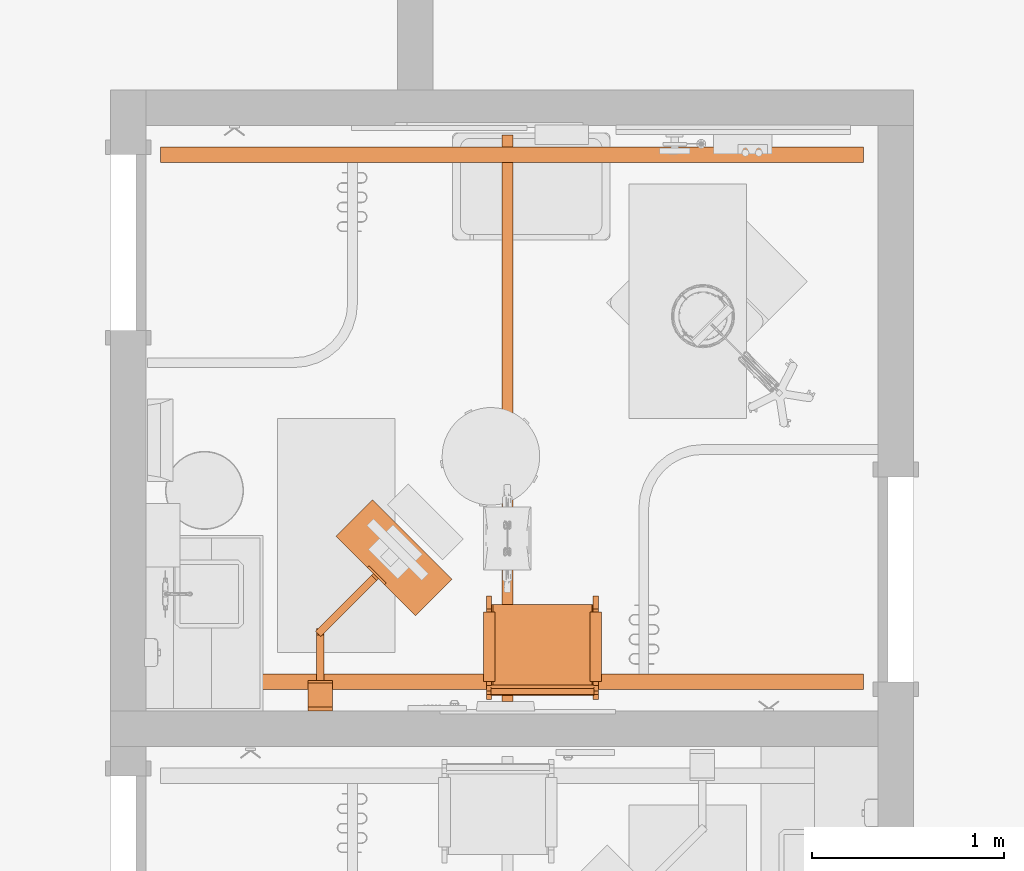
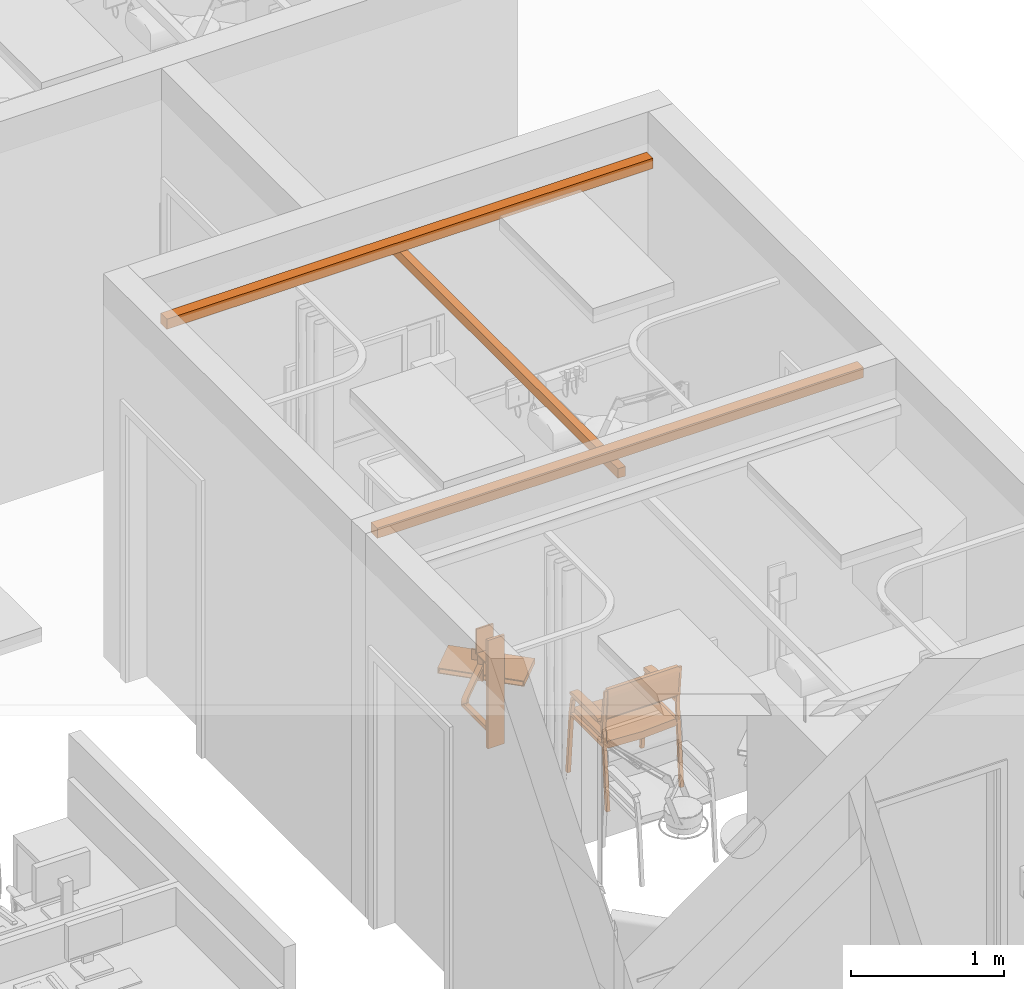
# One storey, part 36 of 142: 3 proxies.
"""IFC2X3 building model written with IfcOpenShell, lengths in feet."""

from ifc_helpers import new_model, entity, si_unit, converted_unit, derived_unit, direction, frame, frame_2d, origin, origin_2d_with_axis, place, context, subcontext, project, spatial, polyline, circle_curve, parameter, trimmed, segment, composite_curve, rectangle, circle, outline, extrude, source, transform, mapped, type_object, type_shapes, element, save


model = new_model("IFC2X3")

# Units and contexts
model_context = context("Model", 3, precision=0.0001, world=origin(), true_north=direction((6.12303176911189e-17, 1.0)))
body_context = subcontext(model_context, "Body", "Model", "MODEL_VIEW")
ifc_project = project(units=[converted_unit("LENGTHUNIT", "FOOT", entity("IfcRatioMeasure", 0.3048), si_unit("LENGTHUNIT", "METRE"), dimensions=[1, 0, 0, 0, 0, 0, 0]), converted_unit("AREAUNIT", "SQUARE FOOT", entity("IfcRatioMeasure", 0.09290304), si_unit("AREAUNIT", "SQUARE_METRE"), dimensions=[2, 0, 0, 0, 0, 0, 0]), converted_unit("VOLUMEUNIT", "CUBIC FOOT", entity("IfcRatioMeasure", 0.028316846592), si_unit("VOLUMEUNIT", "CUBIC_METRE"), dimensions=[3, 0, 0, 0, 0, 0, 0]), converted_unit("PLANEANGLEUNIT", "DEGREE", entity("IfcRatioMeasure", 0.0174532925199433), si_unit("PLANEANGLEUNIT", "RADIAN"), dimensions=[0, 0, 0, 0, 0, 0, 0]), si_unit("MASSUNIT", "GRAM", prefix="KILO"), derived_unit("MASSDENSITYUNIT", [(si_unit("MASSUNIT", "GRAM", prefix="KILO"), 1), (si_unit("LENGTHUNIT", "METRE"), -3)]), si_unit("TIMEUNIT", "SECOND"), si_unit("FREQUENCYUNIT", "HERTZ"), si_unit("THERMODYNAMICTEMPERATUREUNIT", "DEGREE_CELSIUS"), derived_unit("THERMALTRANSMITTANCEUNIT", [(si_unit("MASSUNIT", "GRAM", prefix="KILO"), 1), (si_unit("THERMODYNAMICTEMPERATUREUNIT", "KELVIN"), -1), (si_unit("TIMEUNIT", "SECOND"), -3)]), derived_unit("VOLUMETRICFLOWRATEUNIT", [(si_unit("LENGTHUNIT", "METRE"), 3), (si_unit("TIMEUNIT", "SECOND"), -1)]), si_unit("ELECTRICCURRENTUNIT", "AMPERE"), si_unit("ELECTRICVOLTAGEUNIT", "VOLT"), si_unit("POWERUNIT", "WATT"), si_unit("FORCEUNIT", "NEWTON"), si_unit("ILLUMINANCEUNIT", "LUX"), si_unit("LUMINOUSFLUXUNIT", "LUMEN"), si_unit("LUMINOUSINTENSITYUNIT", "CANDELA"), derived_unit("USERDEFINED", [(si_unit("MASSUNIT", "GRAM", prefix="KILO"), -1), (si_unit("LENGTHUNIT", "METRE"), -2), (si_unit("TIMEUNIT", "SECOND"), 3), (si_unit("LUMINOUSFLUXUNIT", "LUMEN"), 1)]), derived_unit("LINEARVELOCITYUNIT", [(si_unit("LENGTHUNIT", "METRE"), 1), (si_unit("TIMEUNIT", "SECOND"), -1)]), si_unit("PRESSUREUNIT", "PASCAL"), derived_unit("USERDEFINED", [(si_unit("LENGTHUNIT", "METRE"), -2), (si_unit("MASSUNIT", "GRAM", prefix="KILO"), 1), (si_unit("TIMEUNIT", "SECOND"), -2)])], contexts=[model_context])

# Site, building, storey, space
site_placement = place(None, origin())
site = spatial("IfcSite", under=ifc_project, at=site_placement, Name="Default", CompositionType="ELEMENT")
building_placement = place(site_placement, origin())
building = spatial("IfcBuilding", under=site, at=building_placement, Name="OUTPATIENT / PACT CLINIC (Ch. 265)", CompositionType="ELEMENT")
storey_placement = place(building_placement, origin())
storey = spatial("IfcBuildingStorey", under=building, at=storey_placement, Name="LEVEL 1", CompositionType="ELEMENT", Elevation=0.0)
space_placement = place(storey_placement, origin())
space = spatial("IfcSpace", under=storey, at=space_placement, Name="EXPA1", CompositionType="ELEMENT", InteriorOrExteriorSpace="INTERNAL")

# Proxies
building_element_proxy_type_1 = type_object("IfcBuildingElementProxyType", Name="M1803 - Workstation, Computer, Wall Mounted", PredefinedType="NOTDEFINED")
shared_shape_1 = source(origin(), body_context, "Body", "SweptSolid", [
    extrude(circle(Radius=0.104166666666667, at=frame_2d((1.0547118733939e-15, 3.336446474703e-16), x_axis=(1.0, 0.0))), frame((-0.0810226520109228, -1.34888430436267, 0.333333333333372), z_axis=(0.707106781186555, -0.70710678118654, 0.0), x_axis=(0.0, 0.0, 1.0)), (0.0, 0.0, 1.0), 0.125000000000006),
    extrude(outline(composite_curve([segment(polyline([(0.0520833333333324, -0.592708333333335), (0.0520833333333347, 0.644791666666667)]), True, "CONTINUOUS"), segment(polyline([(0.0520833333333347, 0.644791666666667), (-0.0520833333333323, 0.644791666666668)]), True, "CONTINUOUS"), segment(polyline([(-0.0520833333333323, 0.644791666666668), (-0.0520833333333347, -0.696875)]), True, "CONTINUOUS"), segment(trimmed(circle_curve(frame_2d((0.0520833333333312, -0.696875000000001), x_axis=(1.0, 0.0)), 0.104166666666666), [parameter(89.9999999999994)], [parameter(180.0)], True, "PARAMETER"), False, "CONTINUOUS")], self_intersect=False)), frame((-0.0624999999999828, -0.711458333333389, 0.281250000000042), z_axis=(-1.0, 0.0, 0.0), x_axis=(0.0, 0.0, 1.0)), (0.0, 0.0, -1.0), 0.125000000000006),
    extrude(outline(composite_curve([segment(polyline([(0.0520833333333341, -0.651041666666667), (0.0520833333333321, 0.598958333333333)]), True, "CONTINUOUS"), segment(polyline([(0.0520833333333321, 0.598958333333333), (-0.0520833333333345, 0.598958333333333)]), True, "CONTINUOUS"), segment(polyline([(-0.0520833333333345, 0.598958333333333), (-0.0520833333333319, -0.546875)]), True, "CONTINUOUS"), segment(trimmed(circle_curve(frame_2d((-0.0520833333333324, -0.651041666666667), x_axis=(1.0, 0.0)), 0.104166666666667), [parameter(1.01777749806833e-13)], [parameter(90.0000000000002)], True, "PARAMETER"), False, "CONTINUOUS")], self_intersect=False)), frame((-0.452990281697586, -1.89762862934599, 0.385416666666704), z_axis=(0.707106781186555, -0.70710678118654, 0.0), x_axis=(0.0, 0.0, 1.0)), (0.0, 0.0, -1.0), 0.125000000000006),
    extrude(outline(polyline([(-0.0729166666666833, -0.95833333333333), (0.0729166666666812, -0.95833333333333), (0.0729166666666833, 0.95833333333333), (-0.0729166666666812, 0.95833333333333), (-0.0729166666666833, -0.95833333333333)]), holes=[polyline([(-0.05208333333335, -0.937499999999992), (-0.052083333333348, 0.937499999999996), (0.0520833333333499, 0.937499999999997), (0.0520833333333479, -0.937499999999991), (-0.05208333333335, -0.937499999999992)])]), frame((-1.5747857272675, -2.93103572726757, 0.0729166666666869), z_axis=(0.707106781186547, 0.707106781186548, 0.0), x_axis=(0.0, 0.0, -1.0)), (0.0, 0.0, 1.0), 0.883333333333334),
    extrude(rectangle(XDim=0.0666666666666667, YDim=0.416666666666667, at=origin_2d_with_axis()), frame((0.0, -0.0333333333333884, 0.0), z_axis=(0.0, 0.0, 1.0), x_axis=(0.0, 1.0, 0.0)), (0.0, 0.0, 1.0), 0.11949518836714),
    extrude(outline(polyline([(-0.208333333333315, -0.0270833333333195), (-0.0625000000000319, -0.0270833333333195), (-0.0625000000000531, 0.014583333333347), (0.0625000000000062, 0.014583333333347), (0.0625000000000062, -0.0270833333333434), (0.208333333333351, -0.0270833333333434), (0.208333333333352, 0.0395833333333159), (-0.208333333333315, 0.0395833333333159), (-0.208333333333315, -0.0270833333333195)])), frame((0.0, -0.0395833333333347, 0.119495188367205)), (0.0, 0.0, 1.0), 2.0471714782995),
    extrude(outline(polyline([(-0.194444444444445, 0.125), (0.430555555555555, 0.125), (0.430555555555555, 0.166666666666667), (-0.236111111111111, 0.166666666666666), (-0.236111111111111, -0.291666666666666), (-0.194444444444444, -0.291666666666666), (-0.194444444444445, 0.125)])), frame((-0.208333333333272, -0.358333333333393, 2.40277777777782), z_axis=(1.0, 0.0, 0.0), x_axis=(0.0, 0.0, 1.0)), (0.0, 0.0, 1.0), 0.416666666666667),
    extrude(rectangle(XDim=0.0416666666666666, YDim=0.416666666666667, at=frame_2d((4.16333634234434e-17, -5.55111512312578e-17), x_axis=(1.0, 0.0))), frame((-0.964906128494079, -2.3211561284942, 0.503601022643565), z_axis=(0.0, 0.0, 1.0), x_axis=(0.707106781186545, 0.70710678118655, 0.0)), (0.0, 0.0, 1.0), 0.267232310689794),
    extrude(rectangle(XDim=0.125000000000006, YDim=0.0416666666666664, at=frame_2d((-1.94289029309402e-16, 1.16226472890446e-16), x_axis=(1.0, 0.0))), frame((-0.935443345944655, -2.29169334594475, 0.0), z_axis=(0.0, 0.0, 1.0), x_axis=(-0.707106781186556, 0.70710678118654, 0.0)), (0.0, 0.0, 1.0), 0.666666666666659),
    extrude(rectangle(XDim=0.0666666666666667, YDim=0.416666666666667, at=origin_2d_with_axis()), frame((0.0, -0.0333333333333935, 2.16666666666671), z_axis=(0.0, 0.0, 1.0), x_axis=(0.0, 1.0, 0.0)), (0.0, 0.0, 1.0), 0.666666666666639),
])
type_shapes(building_element_proxy_type_1, [shared_shape_1])
proxy_1_placement = place(space_placement, frame((438.228934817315, -920.837175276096, 2.83333333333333), z_axis=(0.0, 0.0, 1.0), x_axis=(-1.0, 0.0, 0.0)))
element("IfcBuildingElementProxy", 1, at=proxy_1_placement, inside=space, type_object=building_element_proxy_type_1, Name="M1803 - Workstation, Computer, Wall Mounted1:M1803 - Workstation, Computer, Wall Mounted", ObjectType="M1803 - Workstation, Computer, Wall Mounted", context=body_context, shape_type="MappedRepresentation", body=[
    mapped(shared_shape_1, transform((0.0, 0.0, 0.0), scale=1.0)),
])
building_element_proxy_type_2 = type_object("IfcBuildingElementProxyType", Name="F0205 - Chair, Side With Arms", PredefinedType="NOTDEFINED")
shared_shape_2 = source(origin(), body_context, "Body", "SweptSolid", [
    extrude(outline(polyline([(-0.104007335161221, -0.374369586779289), (-0.027711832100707, -0.374369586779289), (-0.0197350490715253, -0.338348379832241), (0.00592434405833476, -0.182113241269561), (0.0162560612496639, -0.135457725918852), (0.0457826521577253, -0.00212284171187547), (0.0856087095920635, 0.177721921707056), (0.112798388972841, 0.276572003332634), (0.120257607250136, 0.307674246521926), (0.129202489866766, 0.415216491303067), (0.045581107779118, 0.433734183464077), (0.0167028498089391, 0.395704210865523), (-0.0364083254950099, 0.222671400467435), (-0.125070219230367, -0.177704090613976), (-0.13682888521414, -0.27538652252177), (-0.128352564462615, -0.36942248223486), (-0.104007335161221, -0.374369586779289)])), frame((-0.891159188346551, -0.878769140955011, 2.73061112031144), z_axis=(0.0, 1.0, 0.0), x_axis=(0.991475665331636, 0.0, -0.130291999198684)), (0.0, 0.0, 1.0), 1.75919993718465),
    extrude(outline(polyline([(0.0907668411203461, -0.842703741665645), (0.261538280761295, -0.842703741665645), (0.265730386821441, -0.773999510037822), (0.127479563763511, 0.0287496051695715), (-0.0923338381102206, 0.813085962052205), (-0.125373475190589, 0.873420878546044), (-0.279635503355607, 0.800086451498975), (-0.270660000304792, 0.752608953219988), (-0.0560029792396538, -0.0126173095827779), (0.0784907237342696, -0.795927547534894), (0.0907668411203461, -0.842703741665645)])), frame((-0.90556950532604, 0.000822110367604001, 1.62079321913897), z_axis=(1.0, 0.0, 0.0), x_axis=(0.0, -0.219936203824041, -0.975514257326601)), (0.0, 0.0, 1.0), 1.47211210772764),
    extrude(outline(polyline([(-0.552031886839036, -0.234422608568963), (-0.484734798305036, -0.234422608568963), (-0.233837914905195, -0.160903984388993), (0.324339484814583, 0.0422559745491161), (0.453697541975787, 0.101150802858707), (0.564536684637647, 0.176717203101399), (0.51204038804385, 0.250193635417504), (0.420212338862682, 0.216770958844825), (0.254858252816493, 0.145732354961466), (-0.246233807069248, -0.0366502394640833), (-0.436544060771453, -0.0986810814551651), (-0.576302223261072, -0.167740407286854), (-0.552031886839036, -0.234422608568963)])), frame((-0.1510824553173, -1.00916916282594, 2.22827697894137), z_axis=(0.0, 1.0, 0.0), x_axis=(0.939692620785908, 0.0, 0.34202014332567)), (0.0, 0.0, 1.0), 0.198199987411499),
    extrude(outline(polyline([(-0.525375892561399, -0.221085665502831), (-0.458078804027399, -0.221085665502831), (-0.207181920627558, -0.147567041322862), (0.350995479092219, 0.0555929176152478), (0.480353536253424, 0.114487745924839), (0.591192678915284, 0.190054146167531), (0.551062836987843, 0.246221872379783), (0.114629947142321, 0.0873732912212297), (0.281514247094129, 0.159069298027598), (-0.219577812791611, -0.0233132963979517), (-0.409888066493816, -0.0853441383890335), (-0.549646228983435, -0.154403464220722), (-0.525375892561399, -0.221085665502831)])), frame((-0.180692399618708, 0.814330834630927, 2.23169271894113), z_axis=(0.0, 1.0, 0.0), x_axis=(0.939692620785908, 0.0, 0.34202014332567)), (0.0, 0.0, 1.0), 0.196499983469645),
    extrude(outline(polyline([(0.0166377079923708, -0.666422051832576), (0.099971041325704, -0.666422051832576), (-0.0172324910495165, 0.673220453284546), (-0.0993762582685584, 0.659623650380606), (0.0166377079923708, -0.666422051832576)])), frame((-0.182442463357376, -0.954369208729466, 1.61480726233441), z_axis=(0.0, 1.0, 0.0), x_axis=(0.0871557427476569, 0.0, -0.996194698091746)), (0.0, 0.0, 1.0), 0.0833333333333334),
    extrude(outline(polyline([(0.0166377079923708, -0.666422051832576), (0.099971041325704, -0.666422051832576), (-0.0172324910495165, 0.673220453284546), (-0.0993762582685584, 0.659623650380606), (0.0166377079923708, -0.666422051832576)])), frame((-0.182442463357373, 0.867430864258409, 1.61480726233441), z_axis=(0.0, 1.0, 0.0), x_axis=(0.0871557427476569, 0.0, -0.996194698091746)), (0.0, 0.0, 1.0), 0.0833333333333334),
    extrude(outline(polyline([(0.811855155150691, -1.61770011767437), (0.895188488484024, -1.61770011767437), (0.71143329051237, 0.489199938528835), (0.806416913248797, 1.46713632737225), (0.751033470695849, 1.46713632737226), (0.656855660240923, 0.571094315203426), (-0.516612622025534, 0.571094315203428), (-0.653571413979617, 0.441277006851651), (-0.728375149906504, 0.0391907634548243), (-0.871611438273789, -1.61770011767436), (-0.791571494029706, -1.61770011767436), (-0.646611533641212, 0.0391998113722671), (-0.578172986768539, 0.407071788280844), (-0.496044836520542, 0.48919993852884), (0.649788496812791, 0.489199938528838), (0.811855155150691, -1.61770011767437)])), frame((-0.163768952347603, -0.954369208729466, 1.61770011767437), z_axis=(0.0, 1.0, 0.0), x_axis=(-1.0, 0.0, 0.0)), (0.0, 0.0, 1.0), 0.0885709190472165),
    extrude(outline(polyline([(0.811855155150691, -1.61770011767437), (0.895188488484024, -1.61770011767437), (0.71143329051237, 0.489199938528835), (0.806416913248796, 1.46713632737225), (0.751033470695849, 1.46713632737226), (0.656855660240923, 0.571094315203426), (-0.516612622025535, 0.571094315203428), (-0.653571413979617, 0.441277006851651), (-0.728375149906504, 0.0391907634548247), (-0.871611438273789, -1.61770011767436), (-0.791571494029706, -1.61770011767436), (-0.646611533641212, 0.0391998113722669), (-0.578172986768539, 0.407071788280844), (-0.496044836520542, 0.48919993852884), (0.649788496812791, 0.489199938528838), (0.811855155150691, -1.61770011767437)])), frame((-0.1637689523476, 0.867430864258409, 1.61770011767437), z_axis=(0.0, 1.0, 0.0), x_axis=(-1.0, 0.0, 0.0)), (0.0, 0.0, 1.0), 0.0885709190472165),
])
type_shapes(building_element_proxy_type_2, [shared_shape_2])
proxy_2_placement = place(space_placement, frame((442.025809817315, -919.581966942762, 0.0), z_axis=(0.0, 0.0, 1.0), x_axis=(0.0, 1.0, 0.0)))
element("IfcBuildingElementProxy", 2, at=proxy_2_placement, inside=space, type_object=building_element_proxy_type_2, Name="F0205 - Chair, Side With Arms:F0205 - Chair, Side With Arms", ObjectType="F0205 - Chair, Side With Arms", context=body_context, shape_type="MappedRepresentation", body=[
    mapped(shared_shape_2, transform((0.0, 0.0, 0.0), scale=1.0)),
])
building_element_proxy_type_3 = type_object("IfcBuildingElementProxyType", Name="A1203 Lift System, Overhead, Bariatric", PredefinedType="NOTDEFINED")
shared_shape_3 = source(origin(), body_context, "Body", "SweptSolid", [
    extrude(rectangle(XDim=9.66757011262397, YDim=0.190288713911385, at=frame_2d((0.0, -6.93889390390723e-18), x_axis=(1.0, 0.0))), frame((0.244358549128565, 0.0796819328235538, 8.63910761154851), z_axis=(0.0, 0.0, 1.0), x_axis=(-1.0, 0.0, 0.0)), (0.0, 0.0, 1.0), 0.249343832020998),
    extrude(rectangle(XDim=11.9998599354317, YDim=0.267060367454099, at=frame_2d((0.0, 4.44089209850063e-16), x_axis=(1.0, 0.0))), frame((4.74481027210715, 0.0, 8.99015748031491), z_axis=(0.0, 0.0, 1.0), x_axis=(0.0, 1.0, 0.0)), (0.0, 0.0, 1.0), 0.265748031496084),
    extrude(rectangle(XDim=11.9998599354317, YDim=0.267060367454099, at=frame_2d((0.0, 4.44089209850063e-16), x_axis=(1.0, 0.0))), frame((-4.25609317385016, 0.0, 8.99015748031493), z_axis=(0.0, 0.0, 1.0), x_axis=(0.0, 1.0, 0.0)), (0.0, 0.0, 1.0), 0.265748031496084),
])
type_shapes(building_element_proxy_type_3, [shared_shape_3])
proxy_3_placement = place(space_placement, frame((441.505047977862, -916.081985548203, 0.0), z_axis=(0.0, 0.0, 1.0), x_axis=(0.0, 1.0, 0.0)))
element("IfcBuildingElementProxy", 3, at=proxy_3_placement, inside=space, type_object=building_element_proxy_type_3, Name="A1203 Lift System, Overhead, Bariatric (Traverse):A1203 Lift System, Overhead, Bariatric", ObjectType="A1203 Lift System, Overhead, Bariatric", context=body_context, shape_type="MappedRepresentation", body=[
    mapped(shared_shape_3, transform((0.0, 0.0, 0.0), scale=1.0)),
])

save(model, "model.ifc")
